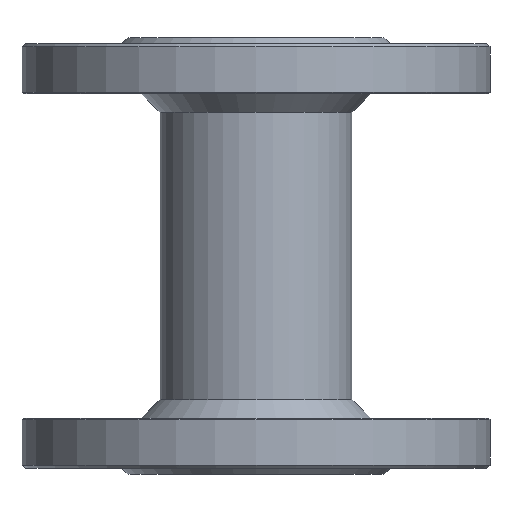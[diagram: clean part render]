
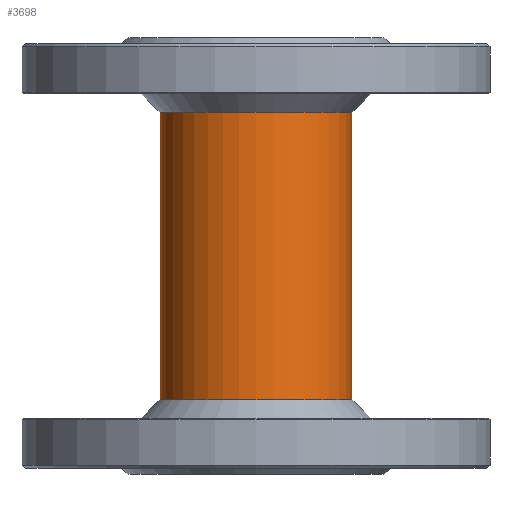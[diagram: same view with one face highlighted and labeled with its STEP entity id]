
A CAD part, front view. The second image highlights one B-rep face of the part: STEP entity #3698.
In plain terms, the highlighted cylindrical face has radius 30.75 mm (diameter 61.5 mm), a full revolution.
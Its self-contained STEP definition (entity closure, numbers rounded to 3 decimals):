
#2276=FACE_BOUND('',#5511,.T.);
#2277=FACE_BOUND('',#5512,.T.);
#2278=FACE_BOUND('',#5513,.T.);
#2502=CYLINDRICAL_SURFACE('',#15955,30.75);
#2922=CIRCLE('',#15953,30.75);
#2923=CIRCLE('',#15954,30.75);
#3698=ADVANCED_FACE('',(#2276,#2277,#2278),#2502,.T.);
#5511=EDGE_LOOP('',(#9797));
#5512=EDGE_LOOP('',(#9798));
#5513=EDGE_LOOP('',(#9799,#9800,#9801,#9802,#9803,#9804,#9805,#9806));
#6267=B_SPLINE_CURVE_WITH_KNOTS('',3,(#32796,#32797,#32798,#32799),
 .UNSPECIFIED.,.F.,.F.,(4,4),(0.,1.),.UNSPECIFIED.);
#6268=B_SPLINE_CURVE_WITH_KNOTS('',3,(#32801,#32802,#32803,#32804,#32805,
#32806),.UNSPECIFIED.,.F.,.F.,(4,2,4),(0.,0.5,1.),.UNSPECIFIED.);
#6269=B_SPLINE_CURVE_WITH_KNOTS('',3,(#32808,#32809,#32810,#32811),
 .UNSPECIFIED.,.F.,.F.,(4,4),(0.,1.),.UNSPECIFIED.);
#6270=B_SPLINE_CURVE_WITH_KNOTS('',3,(#32815,#32816,#32817,#32818),
 .UNSPECIFIED.,.F.,.F.,(4,4),(0.,1.),.UNSPECIFIED.);
#6271=B_SPLINE_CURVE_WITH_KNOTS('',3,(#32820,#32821,#32822,#32823,#32824,
#32825),.UNSPECIFIED.,.F.,.F.,(4,2,4),(0.,0.5,1.),.UNSPECIFIED.);
#6272=B_SPLINE_CURVE_WITH_KNOTS('',3,(#32827,#32828,#32829,#32830),
 .UNSPECIFIED.,.F.,.F.,(4,4),(0.,1.),.UNSPECIFIED.);
#9797=ORIENTED_EDGE('',*,*,#13091,.T.);
#9798=ORIENTED_EDGE('',*,*,#13092,.T.);
#9799=ORIENTED_EDGE('',*,*,#13093,.T.);
#9800=ORIENTED_EDGE('',*,*,#13094,.T.);
#9801=ORIENTED_EDGE('',*,*,#13095,.T.);
#9802=ORIENTED_EDGE('',*,*,#13096,.T.);
#9803=ORIENTED_EDGE('',*,*,#13097,.T.);
#9804=ORIENTED_EDGE('',*,*,#13098,.T.);
#9805=ORIENTED_EDGE('',*,*,#13099,.T.);
#9806=ORIENTED_EDGE('',*,*,#13100,.T.);
#11235=VERTEX_POINT('',#32790);
#11236=VERTEX_POINT('',#32792);
#11237=VERTEX_POINT('',#32794);
#11238=VERTEX_POINT('',#32795);
#11239=VERTEX_POINT('',#32800);
#11240=VERTEX_POINT('',#32807);
#11241=VERTEX_POINT('',#32812);
#11242=VERTEX_POINT('',#32814);
#11243=VERTEX_POINT('',#32819);
#11244=VERTEX_POINT('',#32826);
#13091=EDGE_CURVE('',#11235,#11235,#2922,.T.);
#13092=EDGE_CURVE('',#11236,#11236,#2923,.T.);
#13093=EDGE_CURVE('',#11237,#11238,#14009,.T.);
#13094=EDGE_CURVE('',#11238,#11239,#6267,.T.);
#13095=EDGE_CURVE('',#11239,#11240,#6268,.T.);
#13096=EDGE_CURVE('',#11240,#11241,#6269,.T.);
#13097=EDGE_CURVE('',#11241,#11242,#14010,.T.);
#13098=EDGE_CURVE('',#11242,#11243,#6270,.T.);
#13099=EDGE_CURVE('',#11243,#11244,#6271,.T.);
#13100=EDGE_CURVE('',#11244,#11237,#6272,.T.);
#14009=LINE('',#32793,#14990);
#14010=LINE('',#32813,#14991);
#14990=VECTOR('',#18928,1.);
#14991=VECTOR('',#18929,1.);
#15953=AXIS2_PLACEMENT_3D('',#32789,#18924,#18925);
#15954=AXIS2_PLACEMENT_3D('',#32791,#18926,#18927);
#15955=AXIS2_PLACEMENT_3D('',#32831,#18930,#18931);
#18924=DIRECTION('',(0.,0.,-1.));
#18925=DIRECTION('',(1.,0.,0.));
#18926=DIRECTION('',(0.,0.,1.));
#18927=DIRECTION('',(-1.,0.,0.));
#18928=DIRECTION('',(0.,0.,1.));
#18929=DIRECTION('',(0.,0.,-1.));
#18930=DIRECTION('',(0.,0.,1.));
#18931=DIRECTION('',(-1.,0.,0.));
#32789=CARTESIAN_POINT('',(0.,-12.5,61.));
#32790=CARTESIAN_POINT('',(30.75,-12.5,61.));
#32791=CARTESIAN_POINT('',(0.,-12.5,-31.));
#32792=CARTESIAN_POINT('',(-30.75,-12.5,-31.));
#32793=CARTESIAN_POINT('',(10.226,16.5,-115.));
#32794=CARTESIAN_POINT('',(10.226,16.5,-8.254));
#32795=CARTESIAN_POINT('',(10.226,16.5,4.254));
#32796=CARTESIAN_POINT('',(10.226,16.5,4.254));
#32797=CARTESIAN_POINT('',(9.807,16.647,5.222));
#32798=CARTESIAN_POINT('',(9.295,16.819,6.132));
#32799=CARTESIAN_POINT('',(8.678,17.,6.981));
#32800=CARTESIAN_POINT('',(8.678,17.,6.981));
#32801=CARTESIAN_POINT('',(8.678,17.,6.981));
#32802=CARTESIAN_POINT('',(6.388,17.674,9.198));
#32803=CARTESIAN_POINT('',(3.234,18.249,10.492));
#32804=CARTESIAN_POINT('',(-3.207,18.251,10.507));
#32805=CARTESIAN_POINT('',(-6.38,17.676,9.221));
#32806=CARTESIAN_POINT('',(-8.678,17.,7.012));
#32807=CARTESIAN_POINT('',(-8.678,17.,7.012));
#32808=CARTESIAN_POINT('',(-8.678,17.,7.012));
#32809=CARTESIAN_POINT('',(-9.294,16.819,6.169));
#32810=CARTESIAN_POINT('',(-9.806,16.648,5.266));
#32811=CARTESIAN_POINT('',(-10.226,16.5,4.305));
#32812=CARTESIAN_POINT('',(-10.226,16.5,4.305));
#32813=CARTESIAN_POINT('',(-10.226,16.5,-115.));
#32814=CARTESIAN_POINT('',(-10.226,16.5,-8.305));
#32815=CARTESIAN_POINT('',(-10.226,16.5,-8.305));
#32816=CARTESIAN_POINT('',(-9.806,16.648,-9.266));
#32817=CARTESIAN_POINT('',(-9.294,16.819,-10.169));
#32818=CARTESIAN_POINT('',(-8.678,17.,-11.012));
#32819=CARTESIAN_POINT('',(-8.678,17.,-11.012));
#32820=CARTESIAN_POINT('',(-8.678,17.,-11.012));
#32821=CARTESIAN_POINT('',(-6.381,17.676,-13.22));
#32822=CARTESIAN_POINT('',(-3.222,18.25,-14.504));
#32823=CARTESIAN_POINT('',(3.219,18.25,-14.496));
#32824=CARTESIAN_POINT('',(6.388,17.674,-13.199));
#32825=CARTESIAN_POINT('',(8.678,17.,-10.981));
#32826=CARTESIAN_POINT('',(8.678,17.,-10.981));
#32827=CARTESIAN_POINT('',(8.678,17.,-10.981));
#32828=CARTESIAN_POINT('',(9.295,16.819,-10.132));
#32829=CARTESIAN_POINT('',(9.807,16.647,-9.222));
#32830=CARTESIAN_POINT('',(10.226,16.5,-8.254));
#32831=CARTESIAN_POINT('',(0.,-12.5,-115.));
